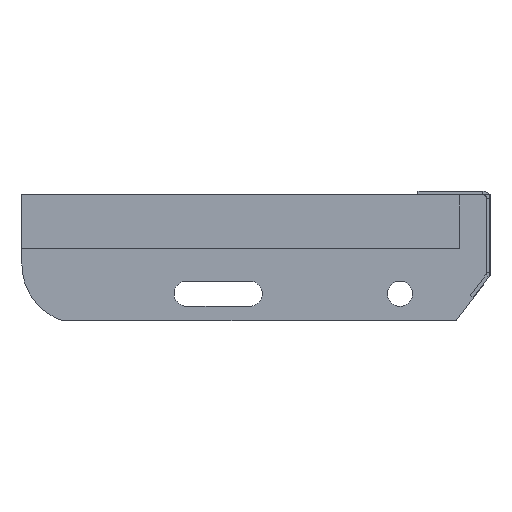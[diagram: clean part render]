
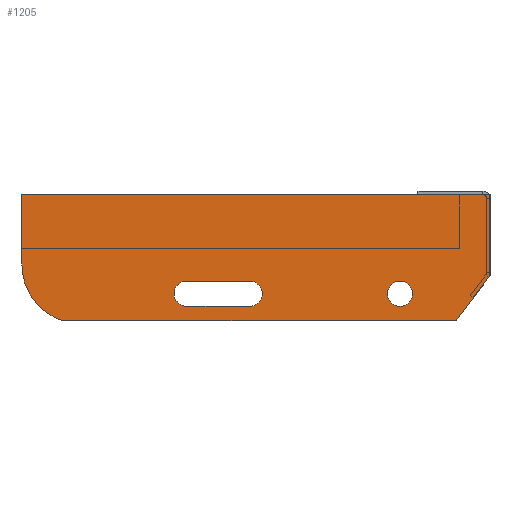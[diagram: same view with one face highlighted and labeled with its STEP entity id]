
A CAD part, left-side view. The second image highlights one B-rep face of the part: STEP entity #1205.
In plain terms, the highlighted planar face has unit normal (-1, 0, 0) as drawn and (0, 0, 1) by its records, which use the part's own axes.
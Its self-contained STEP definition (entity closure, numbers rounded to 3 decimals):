
#1 = ORIENTED_EDGE ( 'NONE', *, *, #1240, .F. ) ;
#15 = FACE_BOUND ( 'NONE', #379, .T. ) ;
#24 = VERTEX_POINT ( 'NONE', #1659 ) ;
#25 = CARTESIAN_POINT ( 'NONE',  ( -168.5, -62., 3. ) ) ;
#36 = ORIENTED_EDGE ( 'NONE', *, *, #964, .F. ) ;
#74 = CIRCLE ( 'NONE', #1215, 7. ) ;
#113 = ORIENTED_EDGE ( 'NONE', *, *, #504, .F. ) ;
#121 = VERTEX_POINT ( 'NONE', #2008 ) ;
#122 = CARTESIAN_POINT ( 'NONE',  ( 0., -45., 3. ) ) ;
#142 = CARTESIAN_POINT ( 'NONE',  ( -18.839, -70., 3. ) ) ;
#149 = CARTESIAN_POINT ( 'NONE',  ( -43., -55., 3. ) ) ;
#186 = DIRECTION ( 'NONE',  ( 1., 0., 0. ) ) ;
#234 = AXIS2_PLACEMENT_3D ( 'NONE', #646, #637, #186 ) ;
#240 = EDGE_CURVE ( 'NONE', #699, #1881, #1073, .T. ) ;
#265 = CIRCLE ( 'NONE', #692, 7. ) ;
#271 = ORIENTED_EDGE ( 'NONE', *, *, #872, .F. ) ;
#298 = AXIS2_PLACEMENT_3D ( 'NONE', #438, #1207, #1521 ) ;
#305 = LINE ( 'NONE', #25, #854 ) ;
#306 = VERTEX_POINT ( 'NONE', #1943 ) ;
#318 = CARTESIAN_POINT ( 'NONE',  ( 0., 0., 3. ) ) ;
#342 = DIRECTION ( 'NONE',  ( 1., 0., 0. ) ) ;
#354 = DIRECTION ( 'NONE',  ( 1., 0., 0. ) ) ;
#356 = VERTEX_POINT ( 'NONE', #1154 ) ;
#379 = EDGE_LOOP ( 'NONE', ( #1691, #1462 ) ) ;
#399 = CIRCLE ( 'NONE', #758, 32.5 ) ;
#415 = EDGE_LOOP ( 'NONE', ( #1235, #1618, #603, #497, #1075, #1484 ) ) ;
#416 = DIRECTION ( 'NONE',  ( 0.602, 0.799, 0. ) ) ;
#420 = CARTESIAN_POINT ( 'NONE',  ( -168.5, -55., 3. ) ) ;
#438 = CARTESIAN_POINT ( 'NONE',  ( -168.5, -55., 3. ) ) ;
#470 = LINE ( 'NONE', #318, #1476 ) ;
#476 = FACE_OUTER_BOUND ( 'NONE', #415, .T. ) ;
#490 = DIRECTION ( 'NONE',  ( 0., 1., 0. ) ) ;
#497 = ORIENTED_EDGE ( 'NONE', *, *, #682, .T. ) ;
#504 = EDGE_CURVE ( 'NONE', #1277, #24, #1282, .T. ) ;
#518 = LINE ( 'NONE', #1485, #1776 ) ;
#559 = VECTOR ( 'NONE', #1494, 1000. ) ;
#577 = EDGE_CURVE ( 'NONE', #1962, #767, #265, .T. ) ;
#603 = ORIENTED_EDGE ( 'NONE', *, *, #1114, .T. ) ;
#620 = CARTESIAN_POINT ( 'NONE',  ( -50., -55., 3. ) ) ;
#637 = DIRECTION ( 'NONE',  ( 0., 0., 1. ) ) ;
#646 = CARTESIAN_POINT ( 'NONE',  ( -227.5, -39., 3. ) ) ;
#659 = EDGE_CURVE ( 'NONE', #356, #694, #1274, .T. ) ;
#682 = EDGE_CURVE ( 'NONE', #1432, #699, #399, .T. ) ;
#692 = AXIS2_PLACEMENT_3D ( 'NONE', #1374, #1849, #2003 ) ;
#694 = VERTEX_POINT ( 'NONE', #1882 ) ;
#699 = VERTEX_POINT ( 'NONE', #1588 ) ;
#722 = EDGE_LOOP ( 'NONE', ( #1, #36, #113, #271, #1393 ) ) ;
#743 = EDGE_CURVE ( 'NONE', #1888, #356, #470, .T. ) ;
#758 = AXIS2_PLACEMENT_3D ( 'NONE', #949, #1252, #342 ) ;
#765 = DIRECTION ( 'NONE',  ( 1., 0., 0. ) ) ;
#766 = CARTESIAN_POINT ( 'NONE',  ( 0., -45., 3. ) ) ;
#767 = VERTEX_POINT ( 'NONE', #149 ) ;
#784 = CARTESIAN_POINT ( 'NONE',  ( -18.839, -70., 3. ) ) ;
#854 = VECTOR ( 'NONE', #1270, 1000. ) ;
#865 = LINE ( 'NONE', #1344, #559 ) ;
#872 = EDGE_CURVE ( 'NONE', #1614, #1277, #518, .T. ) ;
#882 = CIRCLE ( 'NONE', #298, 7. ) ;
#904 = DIRECTION ( 'NONE',  ( 0., 0., 1. ) ) ;
#927 = CARTESIAN_POINT ( 'NONE',  ( 0., 0., 3. ) ) ;
#949 = CARTESIAN_POINT ( 'NONE',  ( -227.5, -39., 3. ) ) ;
#964 = EDGE_CURVE ( 'NONE', #24, #121, #882, .T. ) ;
#1045 = VECTOR ( 'NONE', #765, 1000. ) ;
#1052 = EDGE_CURVE ( 'NONE', #306, #1614, #74, .T. ) ;
#1073 = LINE ( 'NONE', #142, #1045 ) ;
#1075 = ORIENTED_EDGE ( 'NONE', *, *, #240, .T. ) ;
#1076 = CARTESIAN_POINT ( 'NONE',  ( -168.5, -48., 3. ) ) ;
#1114 = EDGE_CURVE ( 'NONE', #694, #1432, #865, .T. ) ;
#1154 = CARTESIAN_POINT ( 'NONE',  ( 0., 0., 3. ) ) ;
#1169 = LINE ( 'NONE', #122, #1810 ) ;
#1205 = ADVANCED_FACE ( 'NONE', ( #476, #15, #1855 ), #1864, .T. ) ;
#1207 = DIRECTION ( 'NONE',  ( 0., 0., 1. ) ) ;
#1215 = AXIS2_PLACEMENT_3D ( 'NONE', #1664, #1983, #1963 ) ;
#1235 = ORIENTED_EDGE ( 'NONE', *, *, #743, .T. ) ;
#1240 = EDGE_CURVE ( 'NONE', #121, #306, #305, .T. ) ;
#1244 = DIRECTION ( 'NONE',  ( 0., 0., 1. ) ) ;
#1252 = DIRECTION ( 'NONE',  ( 0., 0., 1. ) ) ;
#1263 = DIRECTION ( 'NONE',  ( -1., 0., 0. ) ) ;
#1270 = DIRECTION ( 'NONE',  ( 1., 0., 0. ) ) ;
#1274 = LINE ( 'NONE', #927, #1352 ) ;
#1277 = VERTEX_POINT ( 'NONE', #1076 ) ;
#1278 = CARTESIAN_POINT ( 'NONE',  ( -260., -39., 3. ) ) ;
#1282 = CIRCLE ( 'NONE', #1972, 7. ) ;
#1344 = CARTESIAN_POINT ( 'NONE',  ( -260., 0., 3. ) ) ;
#1352 = VECTOR ( 'NONE', #1263, 1000. ) ;
#1363 = CARTESIAN_POINT ( 'NONE',  ( -133.5, -48., 3. ) ) ;
#1374 = CARTESIAN_POINT ( 'NONE',  ( -50., -55., 3. ) ) ;
#1378 = CARTESIAN_POINT ( 'NONE',  ( -57., -55., 3. ) ) ;
#1393 = ORIENTED_EDGE ( 'NONE', *, *, #1052, .F. ) ;
#1432 = VERTEX_POINT ( 'NONE', #1278 ) ;
#1462 = ORIENTED_EDGE ( 'NONE', *, *, #1976, .F. ) ;
#1463 = DIRECTION ( 'NONE',  ( -1., 0., 0. ) ) ;
#1476 = VECTOR ( 'NONE', #490, 1000. ) ;
#1484 = ORIENTED_EDGE ( 'NONE', *, *, #1687, .T. ) ;
#1485 = CARTESIAN_POINT ( 'NONE',  ( -168.5, -48., 3. ) ) ;
#1494 = DIRECTION ( 'NONE',  ( 0., -1., 0. ) ) ;
#1521 = DIRECTION ( 'NONE',  ( 1., 0., 0. ) ) ;
#1533 = DIRECTION ( 'NONE',  ( 1., 0., 0. ) ) ;
#1544 = AXIS2_PLACEMENT_3D ( 'NONE', #620, #1244, #354 ) ;
#1588 = CARTESIAN_POINT ( 'NONE',  ( -237.26, -70., 3. ) ) ;
#1614 = VERTEX_POINT ( 'NONE', #1363 ) ;
#1618 = ORIENTED_EDGE ( 'NONE', *, *, #659, .T. ) ;
#1659 = CARTESIAN_POINT ( 'NONE',  ( -175.5, -55., 3. ) ) ;
#1664 = CARTESIAN_POINT ( 'NONE',  ( -133.5, -55., 3. ) ) ;
#1687 = EDGE_CURVE ( 'NONE', #1881, #1888, #1169, .T. ) ;
#1691 = ORIENTED_EDGE ( 'NONE', *, *, #577, .F. ) ;
#1748 = CIRCLE ( 'NONE', #1544, 7. ) ;
#1776 = VECTOR ( 'NONE', #1463, 1000. ) ;
#1810 = VECTOR ( 'NONE', #416, 1000. ) ;
#1849 = DIRECTION ( 'NONE',  ( 0., 0., 1. ) ) ;
#1855 = FACE_BOUND ( 'NONE', #722, .T. ) ;
#1864 = PLANE ( 'NONE',  #234 ) ;
#1881 = VERTEX_POINT ( 'NONE', #784 ) ;
#1882 = CARTESIAN_POINT ( 'NONE',  ( -260., 0., 3. ) ) ;
#1888 = VERTEX_POINT ( 'NONE', #766 ) ;
#1943 = CARTESIAN_POINT ( 'NONE',  ( -133.5, -62., 3. ) ) ;
#1962 = VERTEX_POINT ( 'NONE', #1378 ) ;
#1963 = DIRECTION ( 'NONE',  ( 1., 0., 0. ) ) ;
#1972 = AXIS2_PLACEMENT_3D ( 'NONE', #420, #904, #1533 ) ;
#1976 = EDGE_CURVE ( 'NONE', #767, #1962, #1748, .T. ) ;
#1983 = DIRECTION ( 'NONE',  ( 0., 0., 1. ) ) ;
#2003 = DIRECTION ( 'NONE',  ( 1., 0., 0. ) ) ;
#2008 = CARTESIAN_POINT ( 'NONE',  ( -168.5, -62., 3. ) ) ;
